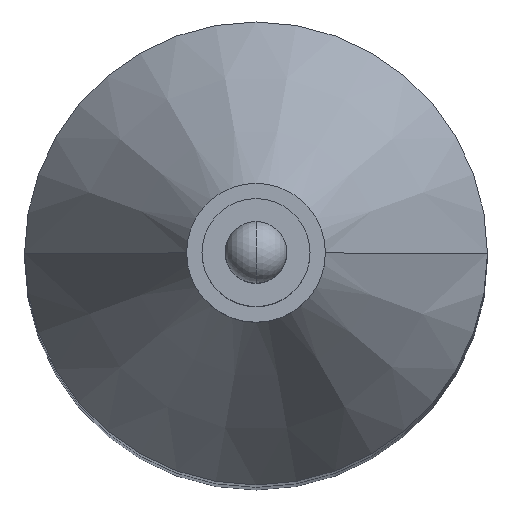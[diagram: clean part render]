
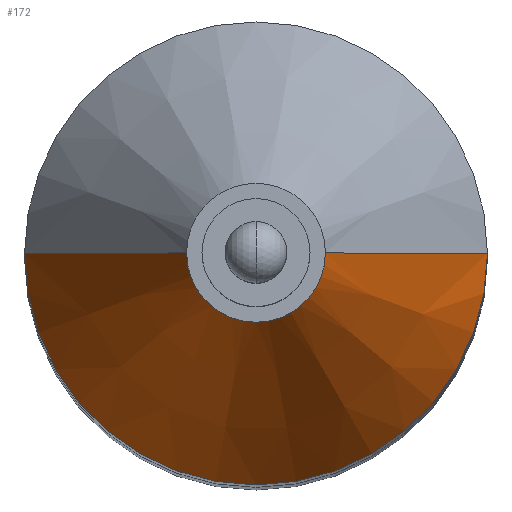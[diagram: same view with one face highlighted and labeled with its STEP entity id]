
A CAD part, top view. The second image highlights one B-rep face of the part: STEP entity #172.
In plain terms, the highlighted conical face has half-angle 29.578 degrees and reference radius 3 mm.
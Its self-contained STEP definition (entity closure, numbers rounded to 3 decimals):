
#47 = VERTEX_POINT ( 'NONE', #326 ) ;
#73 = EDGE_CURVE ( 'NONE', #97, #47, #309, .T. ) ;
#96 = VERTEX_POINT ( 'NONE', #514 ) ;
#97 = VERTEX_POINT ( 'NONE', #513 ) ;
#100 = VERTEX_POINT ( 'NONE', #507 ) ;
#124 = EDGE_CURVE ( 'NONE', #96, #100, #533, .T. ) ;
#169 = EDGE_CURVE ( 'NONE', #96, #97, #438, .T. ) ;
#172 = ADVANCED_FACE ( 'NONE', ( #433 ), #432, .T. ) ;
#173 = EDGE_LOOP ( 'NONE', ( #174, #175, #176, #177 ) ) ;
#174 = ORIENTED_EDGE ( 'NONE', *, *, #124, .F. ) ;
#175 = ORIENTED_EDGE ( 'NONE', *, *, #169, .T. ) ;
#176 = ORIENTED_EDGE ( 'NONE', *, *, #73, .T. ) ;
#177 = ORIENTED_EDGE ( 'NONE', *, *, #178, .F. ) ;
#178 = EDGE_CURVE ( 'NONE', #100, #47, #294, .T. ) ;
#293 = AXIS2_PLACEMENT_3D ( 'NONE', #427, #653, #652 ) ;
#294 = CIRCLE ( 'NONE', #293, 3. ) ;
#306 = DIRECTION ( 'NONE',  ( 0.87, 0., -0.494 ) ) ;
#307 = VECTOR ( 'NONE', #306, 1000. ) ;
#308 = CARTESIAN_POINT ( 'NONE',  ( 8., 0., -3. ) ) ;
#309 = LINE ( 'NONE', #308, #307 ) ;
#326 = CARTESIAN_POINT ( 'NONE',  ( 8., 0., -3. ) ) ;
#427 = CARTESIAN_POINT ( 'NONE',  ( 8., 0., 0. ) ) ;
#428 = DIRECTION ( 'NONE',  ( 0., 0., -1. ) ) ;
#429 = DIRECTION ( 'NONE',  ( 1., 0., 0. ) ) ;
#430 = CARTESIAN_POINT ( 'NONE',  ( 8., 0., 0. ) ) ;
#431 = AXIS2_PLACEMENT_3D ( 'NONE', #430, #429, #428 ) ;
#432 = CONICAL_SURFACE ( 'NONE', #431, 3., 0.516 ) ;
#433 = FACE_OUTER_BOUND ( 'NONE', #173, .T. ) ;
#434 = DIRECTION ( 'NONE',  ( 0., 0., -1. ) ) ;
#435 = DIRECTION ( 'NONE',  ( 1., 0., 0. ) ) ;
#436 = CARTESIAN_POINT ( 'NONE',  ( 4.3, 0., 0. ) ) ;
#437 = AXIS2_PLACEMENT_3D ( 'NONE', #436, #435, #434 ) ;
#438 = CIRCLE ( 'NONE', #437, 0.9 ) ;
#507 = CARTESIAN_POINT ( 'NONE',  ( 8., 0., 3. ) ) ;
#513 = CARTESIAN_POINT ( 'NONE',  ( 4.3, 0., -0.9 ) ) ;
#514 = CARTESIAN_POINT ( 'NONE',  ( 4.3, 0., 0.9 ) ) ;
#530 = DIRECTION ( 'NONE',  ( 0.87, 0., 0.494 ) ) ;
#531 = VECTOR ( 'NONE', #530, 1000. ) ;
#532 = CARTESIAN_POINT ( 'NONE',  ( 8., 0., 3. ) ) ;
#533 = LINE ( 'NONE', #532, #531 ) ;
#652 = DIRECTION ( 'NONE',  ( 0., 0., -1. ) ) ;
#653 = DIRECTION ( 'NONE',  ( 1., 0., 0. ) ) ;
